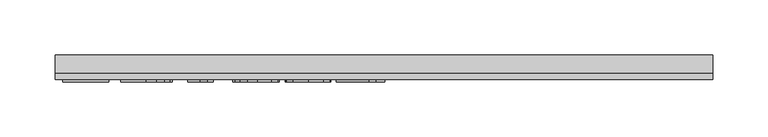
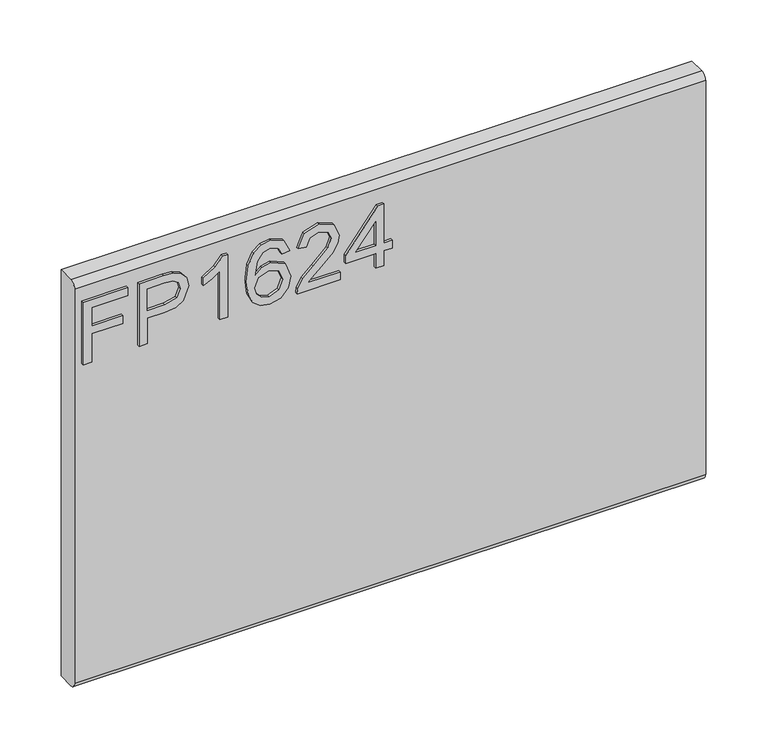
"""IFC4 building model written with IfcOpenShell, lengths in millimetres: furniture geometry."""

import ifcopenshell
import ifcopenshell.guid

model = None  # the IFC model being written
_history = None  # IfcOwnerHistory: only IFC2X3 demands one
_inside = {}  # id of a spatial element -> (the spatial element, [elements in it])
_under = {}  # id of a project, library or spatial element -> (it, [spatial elements below it])
_declared = {}  # id of a project -> (the project, [libraries it declares])
_typed = {}  # id of a type object -> (the type object, [elements of that type])
_made_of = {}  # id of a material, layer set ... -> (it, [elements and type objects made of it])


def new_model(schema):
    """Start an empty IFC model of exactly this schema.

    Asked for "IFC4X3", IfcOpenShell would pick the latest addendum, in which some entities
    have other attributes; the version numbers below select the first issue.
    IFC2X3 requires an IfcOwnerHistory on every rooted entity: one is made here for all.
    """
    global model, _history
    if schema == "IFC4X3":
        model = ifcopenshell.file(schema_version=(4, 3, 0, 0))
    else:
        model = ifcopenshell.file(schema=schema)
    _inside.clear()
    _under.clear()
    _declared.clear()
    _typed.clear()
    _made_of.clear()
    _history = None
    if model.schema == "IFC2X3":
        org = make("IfcOrganization", Name="unknown")
        user = make(
            "IfcPersonAndOrganization",
            ThePerson=make("IfcPerson", FamilyName="unknown"),
            TheOrganization=org,
        )
        app = make(
            "IfcApplication",
            ApplicationDeveloper=org,
            Version="unknown",
            ApplicationFullName="unknown",
            ApplicationIdentifier="unknown",
        )
        _history = make(
            "IfcOwnerHistory",
            OwningUser=user,
            OwningApplication=app,
            ChangeAction="ADDED",
            CreationDate=0,
        )
    return model


def make(cls, **values):
    """One entity of the class cls with the attributes given. An attribute that is None is left unset."""
    return model.create_entity(
        cls, **{name: value for name, value in values.items() if value is not None}
    )


def rooted(cls, **values):
    """An entity with a GlobalId (a new one), such as an element, a storey or a relation."""
    return make(cls, GlobalId=ifcopenshell.guid.new(), OwnerHistory=_history, **values)


def si_unit(unit_type, name, prefix=None):
    """IfcSIUnit, for example si_unit("LENGTHUNIT", "METRE", prefix="MILLI")."""
    return make("IfcSIUnit", UnitType=unit_type, Prefix=prefix, Name=name)


def assignment(units):
    """IfcUnitAssignment: the units of a project."""
    return None if units is None else make("IfcUnitAssignment", Units=units)


def point(xyz):
    """IfcCartesianPoint."""
    return None if xyz is None else make("IfcCartesianPoint", Coordinates=xyz)


def direction(xyz):
    """IfcDirection."""
    return None if xyz is None else make("IfcDirection", DirectionRatios=xyz)


def frame(location, z_axis=None, x_axis=None):
    """IfcAxis2Placement3D, a coordinate frame: its origin and axes. An axis left out is left unset."""
    return make(
        "IfcAxis2Placement3D",
        Location=point(location),
        Axis=direction(z_axis),
        RefDirection=direction(x_axis),
    )


def origin():
    """The frame at (0, 0, 0) with its axes left unset."""
    return frame((0.0, 0.0, 0.0))


def place(relative_to, where):
    """IfcLocalPlacement: puts the frame where relative to a parent placement (None: the world)."""
    return make(
        "IfcLocalPlacement", PlacementRelTo=relative_to, RelativePlacement=where
    )


def context(
    kind, dimensions, precision=None, world=None, true_north=None, identifier=None
):
    """IfcGeometricRepresentationContext, for example the 3D "Model" context."""
    return make(
        "IfcGeometricRepresentationContext",
        ContextIdentifier=identifier,
        ContextType=kind,
        CoordinateSpaceDimension=dimensions,
        Precision=precision,
        WorldCoordinateSystem=world,
        TrueNorth=true_north,
    )


def project(units=None, contexts=None):
    """IfcProject with its units and contexts."""
    return rooted(
        "IfcProject",
        Name="project",
        RepresentationContexts=contexts,
        UnitsInContext=assignment(units),
    )


def spatial(cls, under=None, at=None, **own):
    """A site, building, storey or space (cls), placed at a placement, below another one or the project."""
    s = rooted(cls, ObjectPlacement=at, **own)
    if under is not None:
        _under.setdefault(under.id(), (under, []))[1].append(s)
    return s


def polyline(points):
    """IfcPolyline through the points."""
    return make("IfcPolyline", Points=[point(p) for p in points])


def circle_curve(where, radius):
    """IfcCircle in the frame where."""
    return make("IfcCircle", Position=where, Radius=radius)


def outline(outer, holes=None, kind="AREA"):
    """IfcArbitraryClosedProfileDef: a profile drawn as a closed curve; with holes, ...WithVoids."""
    if holes is None:
        return make("IfcArbitraryClosedProfileDef", ProfileType=kind, OuterCurve=outer)
    return make(
        "IfcArbitraryProfileDefWithVoids",
        ProfileType=kind,
        OuterCurve=outer,
        InnerCurves=holes,
    )


def extrude(swept, where, along, depth):
    """IfcExtrudedAreaSolid: the profile swept, set in the frame where, extruded along a direction by depth."""
    return make(
        "IfcExtrudedAreaSolid",
        SweptArea=swept,
        Position=where,
        ExtrudedDirection=direction(along),
        Depth=depth,
    )


def shape(context_of_items, identifier, shape_type, items):
    """IfcShapeRepresentation: the items that make up one representation, for example the "Body"."""
    return make(
        "IfcShapeRepresentation",
        ContextOfItems=context_of_items,
        RepresentationIdentifier=identifier,
        RepresentationType=shape_type,
        Items=items,
    )


def source(mapping_origin, context_of_items, identifier, shape_type, items):
    """IfcRepresentationMap: a shape defined once, which mapped items show again and again."""
    return make(
        "IfcRepresentationMap",
        MappingOrigin=mapping_origin,
        MappedRepresentation=shape(context_of_items, identifier, shape_type, items),
    )


def transform(
    local_origin,
    x_axis=None,
    y_axis=None,
    z_axis=None,
    scale=None,
    scale2=None,
    scale3=None,
    uniform=True,
):
    """IfcCartesianTransformationOperator3D, or its non-uniform kind. x_axis, y_axis, z_axis: its Axis1, 2, 3."""
    if uniform:
        return make(
            "IfcCartesianTransformationOperator3D",
            Axis1=direction(x_axis),
            Axis2=direction(y_axis),
            LocalOrigin=point(local_origin),
            Scale=scale,
            Axis3=direction(z_axis),
        )
    return make(
        "IfcCartesianTransformationOperator3DnonUniform",
        Axis1=direction(x_axis),
        Axis2=direction(y_axis),
        LocalOrigin=point(local_origin),
        Scale=scale,
        Axis3=direction(z_axis),
        Scale2=scale2,
        Scale3=scale3,
    )


def mapped(mapping_source, mapping_target):
    """IfcMappedItem: shows the shape of a source again, moved by a transform."""
    return make(
        "IfcMappedItem", MappingSource=mapping_source, MappingTarget=mapping_target
    )


def made_of(thing, what):
    """Note that an element or type object is made of a material, layer set ...; save() writes the relation."""
    if what is not None:
        _made_of.setdefault(what.id(), (what, []))[1].append(thing)
    return thing


def element(
    cls,
    number,
    at=None,
    inside=None,
    cuts=None,
    type_object=None,
    material=None,
    context=None,
    identifier="Body",
    shape_type=None,
    held_by="IfcProductDefinitionShape",
    body=None,
    shapes=None,
    **own,
):
    """One element of the class cls, such as IfcWall. Its Tag is "e" and its number.

    at: its placement. inside: the storey or other place that contains it. cuts: it is an
    opening in that element (IfcRelVoidsElement). A single representation is given by context,
    identifier, shape_type and body (its items); several are given by shapes. held_by: the class
    of the entity that holds the representations. save() writes the other relations.
    """
    e = rooted(cls, Tag="e%d" % number, ObjectPlacement=at, **own)
    if body is not None:
        shapes = [shape(context, identifier, shape_type, body)]
    if shapes is not None:
        e.Representation = make(held_by, Representations=shapes)
    if inside is not None:
        _inside.setdefault(inside.id(), (inside, []))[1].append(e)
    if cuts is not None:
        rooted(
            "IfcRelVoidsElement", RelatingBuildingElement=cuts, RelatedOpeningElement=e
        )
    if type_object is not None:
        _typed.setdefault(type_object.id(), (type_object, []))[1].append(e)
    return made_of(e, material)


def aggregate(whole, parts):
    """IfcRelAggregates: a whole, such as a stair, and the parts it consists of."""
    return rooted("IfcRelAggregates", RelatingObject=whole, RelatedObjects=parts)


def save(model, path):
    """Write the relations noted so far, then the file.

    IfcRelAggregates (storeys below a building ...), IfcRelContainedInSpatialStructure (elements
    in a storey), IfcRelDefinesByType, IfcRelAssociatesMaterial and IfcRelDeclares: one each for
    every whole, place, type object, material and project.
    """
    for whole, parts in _under.values():
        aggregate(whole, parts)
    for where, things in _inside.values():
        rooted(
            "IfcRelContainedInSpatialStructure",
            RelatedElements=things,
            RelatingStructure=where,
        )
    for kind, things in _typed.values():
        rooted("IfcRelDefinesByType", RelatedObjects=things, RelatingType=kind)
    for what, things in _made_of.values():
        rooted("IfcRelAssociatesMaterial", RelatedObjects=things, RelatingMaterial=what)
    for by, libraries in _declared.values():
        rooted("IfcRelDeclares", RelatingContext=by, RelatedDefinitions=libraries)
    model.write(path)


def plane_surface(at):
    """IfcPlane: the flat surface through the origin of the frame at, square to its z axis."""
    return make("IfcPlane", Position=at)


def cylinder_surface(at, radius):
    """IfcCylindricalSurface: all points at the distance radius from the z axis of the frame at."""
    return make("IfcCylindricalSurface", Position=at, Radius=radius)


def advanced_brep(points, edges, surfaces, faces):
    """IfcAdvancedBrep: a solid bounded by faces that lie on surfaces and meet in shared edges.

    An edge is (start, end): straight between two places in points (the first is 0);
    or (start, end, curve); or (start, end, curve, False) where it runs against its curve.
    A face is (place in surfaces, loops), or (place, loops, False) where it looks against
    its surface's normal. A loop lists edges by number (the first is 1), with a minus sign
    where the edge is run from its end to its start. The first loop is the outer one.
    """
    corners = [point(p) for p in points]
    vertices = [make("IfcVertexPoint", VertexGeometry=c) for c in corners]
    made = []
    for start, end, *more in edges:
        made.append(
            make(
                "IfcEdgeCurve",
                EdgeStart=vertices[start],
                EdgeEnd=vertices[end],
                EdgeGeometry=more[0] if more else make("IfcPolyline", Points=[corners[start], corners[end]]),
                SameSense=more[1] if len(more) > 1 else True,
            )
        )
    hull = []
    for where, loops, *sense in faces:
        bounds = []
        for j, loop in enumerate(loops):
            ring = [make("IfcOrientedEdge", EdgeElement=made[abs(k) - 1], Orientation=k > 0) for k in loop]
            bounds.append(
                make(
                    "IfcFaceOuterBound" if j == 0 else "IfcFaceBound",
                    Bound=make("IfcEdgeLoop", EdgeList=ring),
                    Orientation=True,
                )
            )
        hull.append(make("IfcAdvancedFace", Bounds=bounds, FaceSurface=surfaces[where], SameSense=sense[0] if sense else True))
    return make("IfcAdvancedBrep", Outer=make("IfcClosedShell", CfsFaces=hull))


def furniture_eb84e7d2(model_context):
    return source(origin(), model_context, "Body", "SolidModel", [
        extrude(outline(polyline([(1695.45, -291.6115385), (1695.45, -283.7961538), (1723.7807692, -283.7961538), (1723.7807692, -254.4884615), (1731.5961538, -254.4884615), (1731.5961538, -283.7961538), (1750.1576923, -283.7961538), (1750.1576923, -249.6038462), (1757.9730769, -249.6038462), (1757.9730769, -291.6115385), (1695.45, -291.6115385)])), frame((0.0, -15.0812439, 0.0), z_axis=(0.0, 1.0, 0.0), x_axis=(0.0, 0.0, 1.0)), (0.0, 0.0, 1.0), 2.38125),
        extrude(outline(polyline([(1695.45, -238.8576923), (1695.45, -231.0423077), (1720.85, -231.0423077), (1720.85, -215.1520433), (1722.2314303, -204.0490835), (1726.3757212, -196.995012), (1739.8847356, -191.9653846), (1748.4099159, -193.8276442), (1754.4546274, -198.7504207), (1757.3777644, -206.3444712), (1757.9730769, -215.6862981), (1757.9730769, -238.8576923), (1695.45, -238.8576923)]), holes=[polyline([(1728.6653846, -231.0423077), (1750.1576923, -231.0423077), (1750.1576923, -214.8772837), (1749.6234375, -207.061899), (1746.0820913, -201.7880409), (1739.609976, -199.7807692), (1731.5350962, -203.1847356), (1728.6653846, -214.6941106), (1728.6653846, -231.0423077)])]), frame((0.0, -15.0812439, 0.0), z_axis=(0.0, 1.0, 0.0), x_axis=(0.0, 0.0, 1.0)), (0.0, 0.0, 1.0), 2.38125),
        extrude(outline(polyline([(1695.45, -154.8423077), (1757.9730769, -154.8423077), (1757.9730769, -159.8795673), (1749.6539663, -166.832512), (1742.3423077, -178.2884615), (1734.9543269, -178.2884615), (1738.9001803, -170.0609375), (1744.1740385, -162.6576923), (1695.45, -162.6576923), (1695.45, -154.8423077)])), frame((0.0, -15.0812439, 0.0), z_axis=(0.0, 1.0, 0.0), x_axis=(0.0, 0.0, 1.0)), (0.0, 0.0, 1.0), 2.38125),
        extrude(outline(polyline([(1741.3653846, -96.2269231), (1753.5616587, -101.996875), (1757.9730769, -114.3457933), (1756.1909555, -123.4166767), (1750.8445913, -130.4192308), (1740.2014724, -135.5480769), (1724.6355769, -137.2576923), (1710.7907452, -135.7178936), (1701.4947115, -131.0984976), (1696.2284856, -124.0367939), (1694.4730769, -115.1700721), (1697.1214543, -104.9276442), (1704.7536659, -97.8296875), (1715.5379808, -95.25), (1729.9323317, -100.7299279), (1735.5038462, -114.009976), (1733.4660457, -122.5504207), (1727.2305288, -129.4423077), (1741.1593149, -127.2213341), (1748.2649038, -121.8864183), (1750.1576923, -114.8342548), (1746.9063702, -107.0036058), (1740.3884615, -104.0423077), (1741.3653846, -96.2269231)]), holes=[polyline([(1715.6600962, -129.4423077), (1724.3684495, -125.557512), (1727.6884615, -116.1012019), (1724.3684495, -106.5227764), (1715.2784856, -103.0653846), (1705.7840144, -106.5685697), (1702.2884615, -115.780649), (1703.9751803, -122.8251803), (1708.8903245, -127.6334736), (1715.6600962, -129.4423077)])]), frame((0.0, -15.0812439, 0.0), z_axis=(0.0, 1.0, 0.0), x_axis=(0.0, 0.0, 1.0)), (0.0, 0.0, 1.0), 2.38125),
        extrude(outline(polyline([(1703.2653846, -48.3576923), (1703.2653846, -79.0544471), (1707.2417668, -75.5283654), (1714.7594952, -66.5376202), (1725.467488, -55.3411659), (1733.1302284, -50.7236779), (1740.5411058, -49.3346154), (1752.9663462, -54.4863582), (1757.9730769, -68.4762019), (1753.4700721, -82.4202524), (1740.3884615, -88.4115385), (1739.4115385, -80.5961538), (1747.3032452, -77.3066707), (1750.1576923, -68.6441106), (1747.2345553, -60.3326322), (1740.0679087, -57.15), (1731.2145433, -60.5234375), (1718.1939904, -74.0171875), (1709.1345553, -83.8016827), (1700.8383413, -88.5489183), (1695.45, -89.3884615), (1695.45, -48.3576923), (1703.2653846, -48.3576923)])), frame((0.0, -15.0812439, 0.0), z_axis=(0.0, 1.0, 0.0), x_axis=(0.0, 0.0, 1.0)), (0.0, 0.0, 1.0), 2.38125),
        extrude(outline(polyline([(1695.45, -15.1423077), (1695.45, -7.3269231), (1710.1038462, -7.3269231), (1710.1038462, 0.4884615), (1717.9192308, 0.4884615), (1717.9192308, -7.3269231), (1756.9961538, -7.3269231), (1756.9961538, -13.1884615), (1717.9192308, -43.4730769), (1710.1038462, -43.4730769), (1710.1038462, -15.1423077), (1695.45, -15.1423077)]), holes=[polyline([(1717.9192308, -15.1423077), (1717.9192308, -33.8564904), (1742.0675481, -15.1423077), (1717.9192308, -15.1423077)])]), frame((0.0, -15.0812439, 0.0), z_axis=(0.0, 1.0, 0.0), x_axis=(0.0, 0.0, 1.0)), (0.0, 0.0, 1.0), 2.38125),
        advanced_brep(
        [(298.45, 9.5250061, 1778.0), (298.45, -6.7309939, 1778.0), (298.45, -12.6999939, 1772.031), (298.45, -12.6999939, 1377.569), (298.45, -6.7309939, 1371.6), (298.45, 9.5250061, 1371.6), (-298.45, 9.5250061, 1778.0), (-298.45, 9.5250061, 1371.6), (-298.45, -6.7309939, 1371.6), (-298.45, -12.6999939, 1377.569), (-298.45, -12.6999939, 1772.0310121), (-298.45, -6.7309939, 1778.0)],
        [
            (0, 1),
            (1, 2, circle_curve(frame((298.45, -6.7309939, 1772.031), z_axis=(1.0, 0.0, 0.0), x_axis=(0.0, 1.0, 0.0)), 5.969)),
            (2, 3),
            (3, 4, circle_curve(frame((298.45, -6.7309939, 1377.569), z_axis=(1.0, 0.0, 0.0), x_axis=(0.0, 1.0, 0.0)), 5.969)),
            (4, 5),
            (5, 0),
            (6, 7),
            (7, 8),
            (8, 9, circle_curve(frame((-298.45, -6.7309939, 1377.569), z_axis=(-1.0, 0.0, 0.0), x_axis=(0.0, 1.0, 0.0)), 5.969)),
            (9, 10),
            (10, 11, circle_curve(frame((-298.45, -6.7309939, 1772.031), z_axis=(-1.0, 0.0, 0.0), x_axis=(0.0, 1.0, 0.0)), 5.969)),
            (11, 6),
            (0, 6),
            (11, 1),
            (10, 2),
            (9, 3),
            (8, 4),
            (7, 5),
        ],
        [
            plane_surface(frame((298.45, -6.7309939, 1778.0), z_axis=(1.0, 0.0, 0.0), x_axis=(0.0, -1.0, 0.0))),
            plane_surface(frame((-298.45, -6.7309939, 1778.0), z_axis=(-1.0, 0.0, 0.0), x_axis=(0.0, 1.0, 0.0))),
            plane_surface(frame((298.45, 9.5250061, 1778.0), z_axis=(0.0, 0.0, 1.0), x_axis=(-1.0, 0.0, 0.0))),
            cylinder_surface(frame((-298.45, -6.7309939, 1772.031), z_axis=(1.0, 0.0, 0.0), x_axis=(0.0, 1.0, 0.0)), 5.969),
            plane_surface(frame((298.45, -12.6999939, 1772.0310121), z_axis=(0.0, -1.0, 0.0), x_axis=(-1.0, 0.0, 0.0))),
            cylinder_surface(frame((-298.45, -6.7309939, 1377.569), z_axis=(1.0, 0.0, 0.0), x_axis=(0.0, 1.0, 0.0)), 5.969),
            plane_surface(frame((298.45, -6.7309939, 1371.6), z_axis=(0.0, 0.0, -1.0), x_axis=(-1.0, 0.0, 0.0))),
            plane_surface(frame((298.45, 9.5250061, 1371.6), z_axis=(0.0, 1.0, 0.0), x_axis=(-1.0, 0.0, 0.0))),
        ],
        [
            (0, [[1, 2, 3, 4, 5, 6]]),
            (1, [[7, 8, 9, 10, 11, 12]]),
            (2, [[-1, 13, -12, 14]]),
            (3, [[-2, -14, -11, 15]]),
            (4, [[-3, -15, -10, 16]]),
            (5, [[-4, -16, -9, 17]]),
            (6, [[-5, -17, -8, 18]]),
            (7, [[-6, -18, -7, -13]]),
        ],
    ),
    ])


if __name__ == "__main__":
    model = new_model("IFC4")
    model_context = context("Model", 3, world=origin())
    ifc_project = project(units=[si_unit("LENGTHUNIT", "METRE", prefix="MILLI")], contexts=[model_context])
    site = spatial("IfcSite", under=ifc_project)
    building = spatial("IfcBuilding", under=site)
    placement = place(None, origin())
    furniture_shape = furniture_eb84e7d2(model_context)
    element("IfcFurniture", 1, ObjectType="HermanMiller_Ethospace_E1420_FaceTile : Ptd 16\"H x 24\"W", at=placement, inside=building, context=model_context, shape_type="MappedRepresentation", body=[
        mapped(furniture_shape, transform((0.0, 0.0, 0.0), x_axis=(1.0, 0.0, 0.0), y_axis=(0.0, 1.0, 0.0), z_axis=(0.0, 0.0, 1.0))),
    ])
    save(model, "model.ifc")
